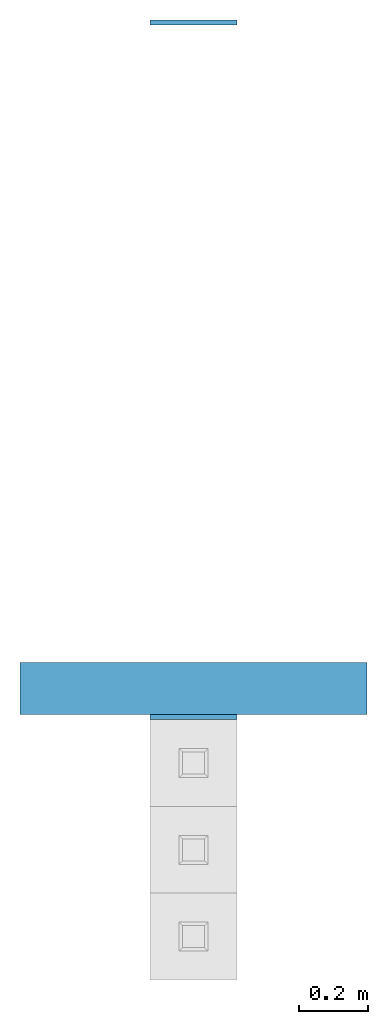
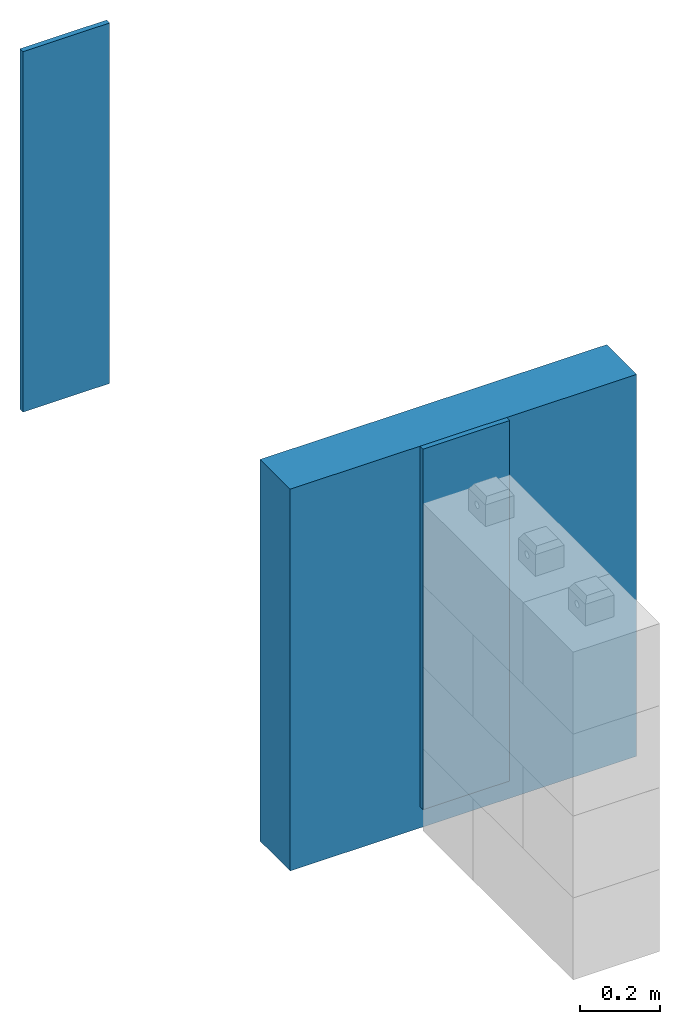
# One storey, incomplete: 2 beams, 1 wall.
"""IFC4 building model written with IfcOpenShell, lengths in centimetres."""

from ifc_helpers import new_model, entity, si_unit, converted_unit, direction, frame, origin, place, context, subcontext, project, spatial, indexed_curve, outline, extrude, source, transform, mapped, material, type_object, type_shapes, element, save


model = new_model("IFC4")

# Units and contexts
model_context = context("Model", 3, precision=0.001, world=origin(), true_north=direction((0.0, 1.0)))
body_context = subcontext(model_context, "Body", "Model", "MODEL_VIEW")
ifc_project = project(units=[si_unit("LENGTHUNIT", "METRE", prefix="CENTI"), si_unit("AREAUNIT", "SQUARE_METRE"), si_unit("VOLUMEUNIT", "CUBIC_METRE"), converted_unit("PLANEANGLEUNIT", "DEGREE", entity("IfcPlaneAngleMeasure", 0.017453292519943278), si_unit("PLANEANGLEUNIT", "RADIAN"), dimensions=[0, 0, 0, 0, 0, 0, 0])], contexts=[model_context])

# Site, building, storey
site_placement = place(None, origin())
site = spatial("IfcSite", under=ifc_project, at=site_placement, Name="Default", CompositionType="ELEMENT")
building_placement = place(site_placement, origin())
building = spatial("IfcBuilding", under=site, at=building_placement, CompositionType="ELEMENT")
storey_placement = place(building_placement, frame((0.0, 0.0, -12.0)))
storey = spatial("IfcBuildingStorey", under=building, at=storey_placement, Name="L00__ABOVE Slab", CompositionType="ELEMENT", Elevation=-12.000000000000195)

# Beams
ifc_material_1 = material(Name="_STRUCTURE__Wood")
beam_type = type_object("IfcBeamType", Name="Structural Framing : sfr__WOOD__Rectangular__sf : 15 x 1cm", PredefinedType="BEAM", material=ifc_material_1)
shared_shape = source(origin(), body_context, "Body", "SweptSolid", [
    extrude(outline(indexed_curve([(-55.0, -12.500000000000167), (55.0, -12.500000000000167), (55.0, 12.500000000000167), (-55.0, 12.500000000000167), (-55.0, -12.500000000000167)], self_intersect=False)), frame((0.0, 0.0, -0.7500000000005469), z_axis=(0.0, 0.0, 1.0), x_axis=(-1.0, 0.0, 0.0)), (0.0, 0.0, 1.0), 1.4999999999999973),
])
type_shapes(beam_type, [shared_shape])
for number, where, z_axis, x_axis in (
    (1, (2025.6494566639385, 1239.4552064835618, 71.5), (0.0, 1.0, 0.0), (0.0, 0.0, 1.0)),
    (2, (2025.6494566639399, 1039.4552064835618, 71.5), (0.0, 1.0, 0.0), (0.0, 0.0, 1.0)),
):
    element("IfcBeam", number, at=place(storey_placement, frame(where, z_axis=z_axis, x_axis=x_axis)), inside=storey, type_object=beam_type, material=ifc_material_1, Name="Structural Framing : sfr__WOOD__Rectangular__sf : 15 x 1cm", PredefinedType="BEAM", context=body_context, shape_type="MappedRepresentation", body=[
        mapped(shared_shape, transform((0.0, 0.0, 0.0), scale=1.0)),
    ])

# Wall
ifc_material_2 = material(Name="_STRUCTURE__Reinforced Concrete")
wall_type = type_object("IfcWallType", Name="Walls : Basic Wall : wll__STRUCTURE__Reinforced Concrete 15cm", PredefinedType="STANDARD")
wall_placement = place(storey_placement, frame((1975.6494566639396, 1047.705206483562, 10.0)))
element("IfcWall", 3, at=wall_placement, inside=storey, type_object=wall_type, material=ifc_material_2, Name="Walls : Basic Wall : wll__STRUCTURE__Reinforced Concrete 15cm", PredefinedType="NOTDEFINED", context=body_context, shape_type="SweptSolid", body=[
    extrude(outline(indexed_curve([(100.00000000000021, 7.5000000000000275), (-1.6243006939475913e-14, 7.5000000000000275), (1.6243006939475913e-14, -7.5000000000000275), (100.00000000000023, -7.5000000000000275), (100.00000000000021, 7.5000000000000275)], self_intersect=False)), origin(), (0.0, 0.0, 1.0), 116.50000000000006),
])

save(model, "model.ifc")
